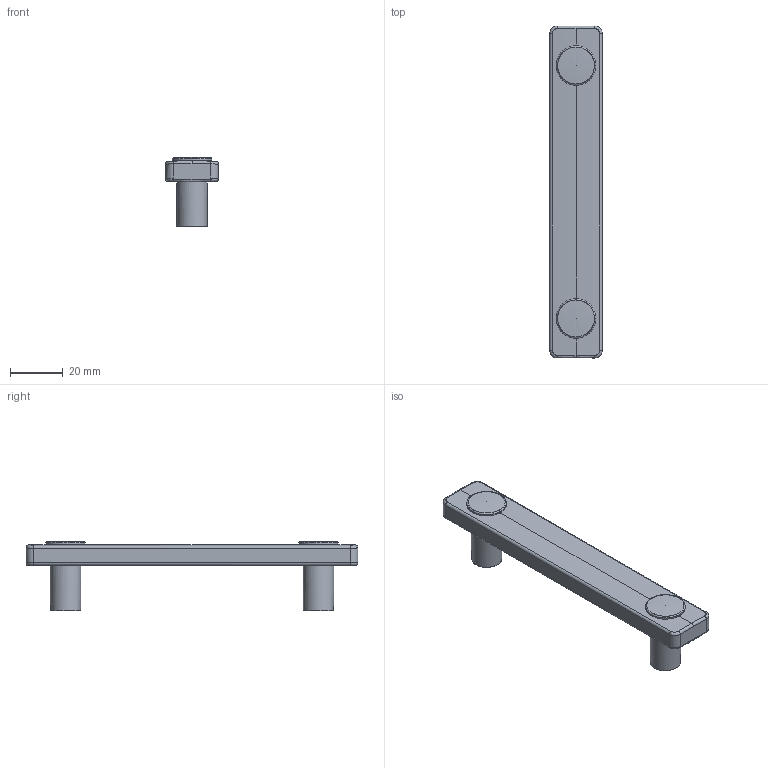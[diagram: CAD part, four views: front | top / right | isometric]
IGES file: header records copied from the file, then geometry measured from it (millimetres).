
Start section: C
Global section: file name: 8119-126.igs; native system: By Siemens PLM Incorporated; preprocessor: XPlus GENERIC/IGES 16.0.42; author: Author; organization: Title; date: 20231126.144303; units: millimetre
Bounding box: 20 x 126 x 26.4 mm (x, y, z)
Surface area: 12605 mm2 (no closed solid volume)
Topology: 0 solids, 0 shells, 67 faces, 334 edges, 332 vertices
Faces by surface type: bspline 67
